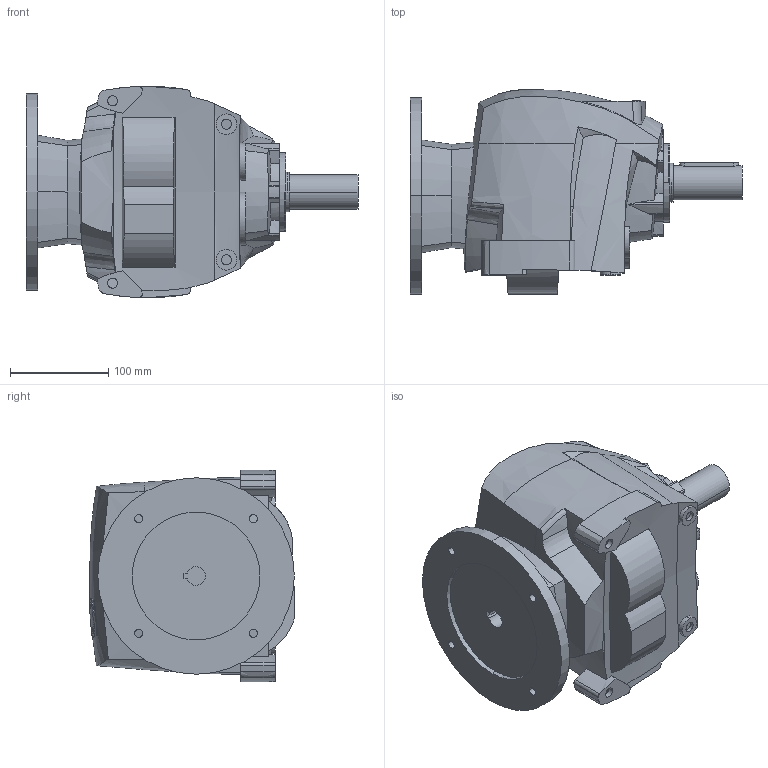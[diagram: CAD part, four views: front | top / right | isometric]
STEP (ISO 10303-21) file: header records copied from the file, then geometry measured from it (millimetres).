
FILE_DESCRIPTION((''),'2;1');
FILE_NAME('R30_UNV_PAM80_D2','2013-11-19T',('Luca'),(''),'PRO/ENGINEER BY PARAMETRIC TECHNOLOGY CORPORATION, 2008230','PRO/ENGINEER BY PARAMETRIC TECHNOLOGY CORPORATION, 2008230','');
FILE_SCHEMA(('CONFIG_CONTROL_DESIGN'));
Length unit declared in the file: millimetre
Products named in the file (1): R30_UNV_PAM80_D2
Bounding box: 338 x 209.27 x 215.22 mm (x, y, z)
Volume: 6563300.3 mm3; surface area: 281205.9 mm2
Topology: 6 solids, 6 shells, 391 faces, 1066 edges, 716 vertices
Faces by surface type: plane 144, cylinder 113, bspline 87, cone 26, extrusion 17, torus 4
Entity records: 16375 total; most frequent: CARTESIAN_POINT 7289, ORIENTED_EDGE 2120, DIRECTION 1465, EDGE_CURVE 1060, VERTEX_POINT 714, VECTOR 489, AXIS2_PLACEMENT_3D 488, LINE 472
